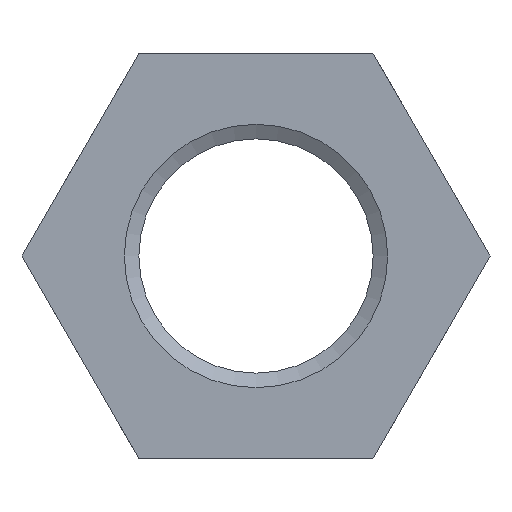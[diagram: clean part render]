
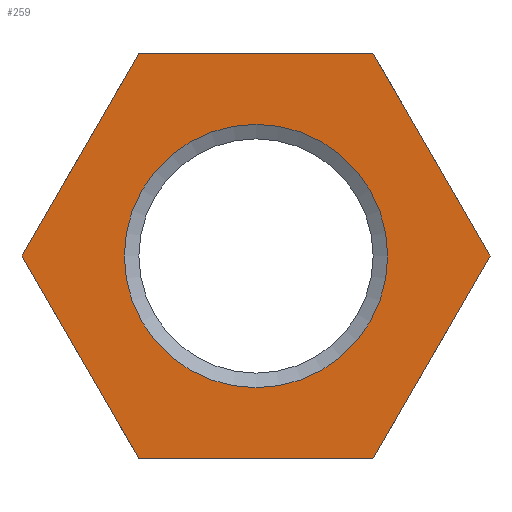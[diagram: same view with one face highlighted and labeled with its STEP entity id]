
A CAD part, front view. The second image highlights one B-rep face of the part: STEP entity #259.
In plain terms, the highlighted planar face has unit normal (0, -1, 0).
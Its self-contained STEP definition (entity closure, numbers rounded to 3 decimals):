
#14=LINE($,#435,#26);
#17=LINE($,#440,#29);
#19=LINE($,#444,#31);
#21=LINE($,#448,#33);
#23=LINE($,#452,#35);
#24=LINE($,#454,#36);
#26=VECTOR($,#334,34.641);
#29=VECTOR($,#339,34.641);
#31=VECTOR($,#343,34.641);
#33=VECTOR($,#347,34.641);
#35=VECTOR($,#351,34.641);
#36=VECTOR($,#354,34.641);
#43=PLANE($,#289);
#61=FACE_BOUND($,#98,.T.);
#62=FACE_BOUND($,#99,.T.);
#98=EDGE_LOOP($,(#222));
#99=EDGE_LOOP($,(#223,#224,#225,#226,#227,#228));
#102=CIRCLE($,#265,19.5);
#112=VERTEX_POINT($,#361);
#128=VERTEX_POINT($,#432);
#129=VERTEX_POINT($,#434);
#130=VERTEX_POINT($,#438);
#131=VERTEX_POINT($,#442);
#132=VERTEX_POINT($,#446);
#133=VERTEX_POINT($,#450);
#134=EDGE_CURVE($,#112,#112,#102,.T.);
#157=EDGE_CURVE($,#129,#128,#14,.T.);
#160=EDGE_CURVE($,#128,#130,#17,.T.);
#162=EDGE_CURVE($,#130,#131,#19,.T.);
#164=EDGE_CURVE($,#131,#132,#21,.T.);
#166=EDGE_CURVE($,#132,#133,#23,.T.);
#167=EDGE_CURVE($,#133,#129,#24,.T.);
#222=ORIENTED_EDGE($,*,*,#134,.T.);
#223=ORIENTED_EDGE($,*,*,#162,.T.);
#224=ORIENTED_EDGE($,*,*,#164,.T.);
#225=ORIENTED_EDGE($,*,*,#166,.T.);
#226=ORIENTED_EDGE($,*,*,#167,.T.);
#227=ORIENTED_EDGE($,*,*,#157,.T.);
#228=ORIENTED_EDGE($,*,*,#160,.T.);
#259=ADVANCED_FACE($,(#61,#62),#43,.F.);
#265=AXIS2_PLACEMENT_3D($,#362,#295,#296);
#289=AXIS2_PLACEMENT_3D($,#455,#355,#356);
#295=DIRECTION('center_axis',(0.,1.,0.));
#296=DIRECTION('ref_axis',(-1.,0.,0.));
#334=DIRECTION($,(-1.,0.,0.));
#339=DIRECTION($,(-0.5,0.,-0.866));
#343=DIRECTION($,(0.5,0.,-0.866));
#347=DIRECTION($,(1.,0.,0.));
#351=DIRECTION($,(0.5,0.,0.866));
#354=DIRECTION($,(-0.5,0.,0.866));
#355=DIRECTION('center_axis',(0.,1.,0.));
#356=DIRECTION('ref_axis',(0.,0.,1.));
#361=CARTESIAN_POINT('',(-19.5,0.,0.));
#362=CARTESIAN_POINT('Origin',(0.,0.,0.));
#432=CARTESIAN_POINT('',(-17.321,0.,30.));
#434=CARTESIAN_POINT('',(17.321,0.,30.));
#435=CARTESIAN_POINT($,(17.321,0.,30.));
#438=CARTESIAN_POINT('',(-34.641,0.,0.));
#440=CARTESIAN_POINT($,(-17.321,0.,30.));
#442=CARTESIAN_POINT('',(-17.321,0.,-30.));
#444=CARTESIAN_POINT($,(-34.641,0.,0.));
#446=CARTESIAN_POINT('',(17.321,0.,-30.));
#448=CARTESIAN_POINT($,(-17.321,0.,-30.));
#450=CARTESIAN_POINT('',(34.641,0.,0.));
#452=CARTESIAN_POINT($,(17.321,0.,-30.));
#454=CARTESIAN_POINT($,(34.641,0.,0.));
#455=CARTESIAN_POINT('Origin',(0.,0.,0.));
